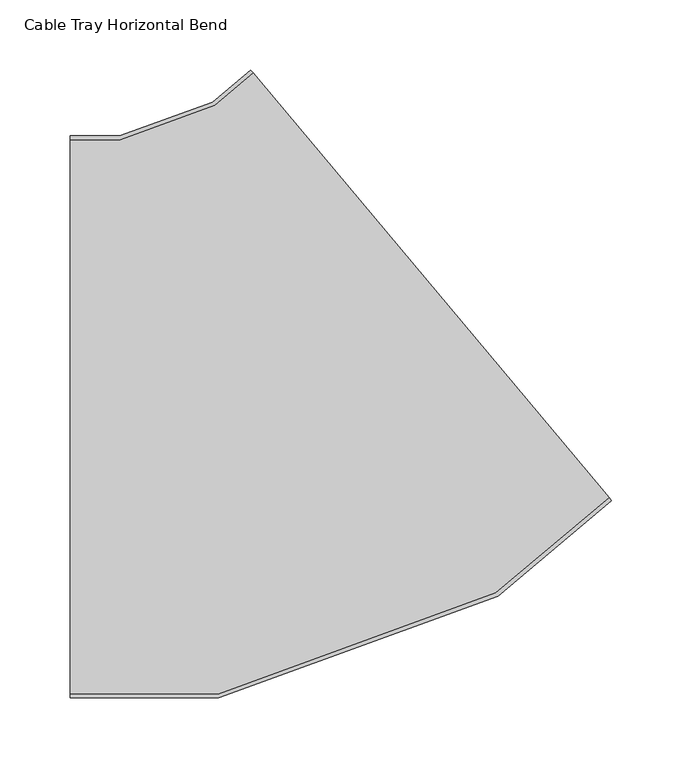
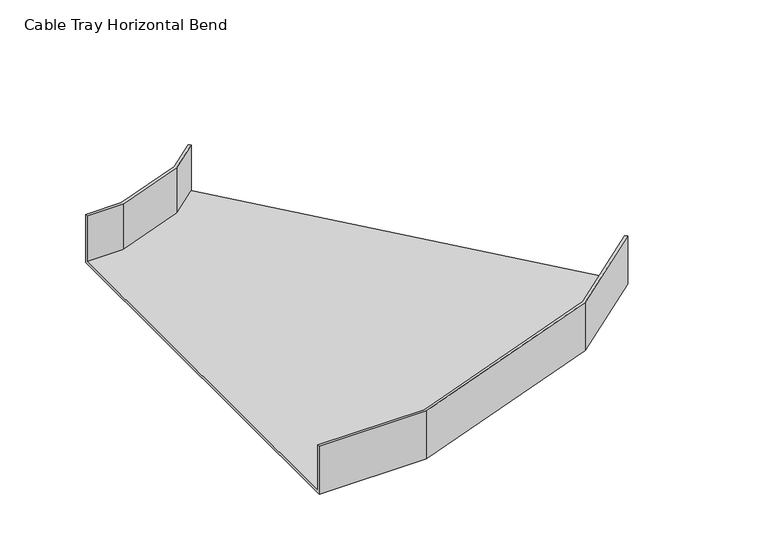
"""IFC4 building model written with IfcOpenShell, lengths in millimetres: cable carrier fitting geometry, Cable Tray Horizontal Bend : ELEC_SUB_CT_N2402."""

from ifc_helpers import new_model, si_unit, origin, place, context, project, spatial, faceted_brep, source, transform, mapped, element, save


def cable_tray_horizontal_bend_2ef30f2e(model_context):
    return source(origin(), model_context, "Body", "Brep", [
        faceted_brep([(-145.5880937, -200.0, -25.0), (-145.5880937, -200.0, 25.0), (-145.5880937, -197.46, 25.0), (-145.5880937, -197.46, -22.46), (-145.5880937, 197.46, -22.46), (-145.5880937, 197.46, 25.0), (-145.5880937, 200.0, 25.0), (-145.5880937, 200.0, -25.0), (240.0844721, -59.6266659, -25.0), (-17.0305718, 246.7911114, -25.0), (-17.0305718, 246.7911114, 25.0), (-15.3978912, 244.8453585, 25.0), (-15.3978912, 244.8453585, -22.46), (238.4517916, -57.680913, -22.46), (238.4517916, -57.680913, 25.0), (240.0844721, -59.6266659, 25.0), (-39.7919053, -200.0, -25.0), (-39.7919053, -200.0, 25.0), (159.0398899, -127.6311449, 25.0), (157.7502981, -125.3975064, 25.0), (-40.2397758, -197.46, 25.0), (-40.2397758, -197.46, -22.46), (157.7502981, -125.3975064, -22.46), (-42.7558407, 221.8893132, -22.46), (-109.874827, 197.46, -22.46), (-109.874827, 197.46, 25.0), (-42.7558407, 221.8893132, 25.0), (-44.0454325, 224.1229517, 25.0), (-110.3226976, 200.0, 25.0), (-110.3226976, 200.0, -25.0), (-44.0454325, 224.1229517, -25.0), (159.0398899, -127.6311449, -25.0)], [[[0, 1, 2, 3, 4, 5, 6, 7]], [[8, 9, 10, 11, 12, 13, 14, 15]], [[1, 0, 16, 17]], [[2, 1, 17, 18, 15, 14, 19, 20]], [[3, 2, 20, 21]], [[4, 3, 21, 22, 13, 12, 23, 24]], [[5, 4, 24, 25]], [[6, 5, 25, 26, 11, 10, 27, 28]], [[7, 6, 28, 29]], [[0, 7, 29, 30, 9, 8, 31, 16]], [[17, 16, 31, 18]], [[21, 20, 19, 22]], [[25, 24, 23, 26]], [[29, 28, 27, 30]], [[18, 31, 8, 15]], [[22, 19, 14, 13]], [[26, 23, 12, 11]], [[30, 27, 10, 9]]]),
    ])


if __name__ == "__main__":
    model = new_model("IFC4")
    model_context = context("Model", 3, world=origin())
    ifc_project = project(units=[si_unit("LENGTHUNIT", "METRE", prefix="MILLI")], contexts=[model_context])
    site = spatial("IfcSite", under=ifc_project)
    building = spatial("IfcBuilding", under=site)
    placement = place(None, origin())
    cable_tray_horizontal_bend_shape = cable_tray_horizontal_bend_2ef30f2e(model_context)
    element("IfcCableCarrierFitting", 1, ObjectType="Cable Tray Horizontal Bend : ELEC_SUB_CT_N2402", at=placement, inside=building, context=model_context, shape_type="MappedRepresentation", body=[
        mapped(cable_tray_horizontal_bend_shape, transform((0.0, 0.0, 0.0), x_axis=(1.0, 0.0, 0.0), y_axis=(0.0, 1.0, 0.0), z_axis=(0.0, 0.0, 1.0))),
    ])
    save(model, "model.ifc")
